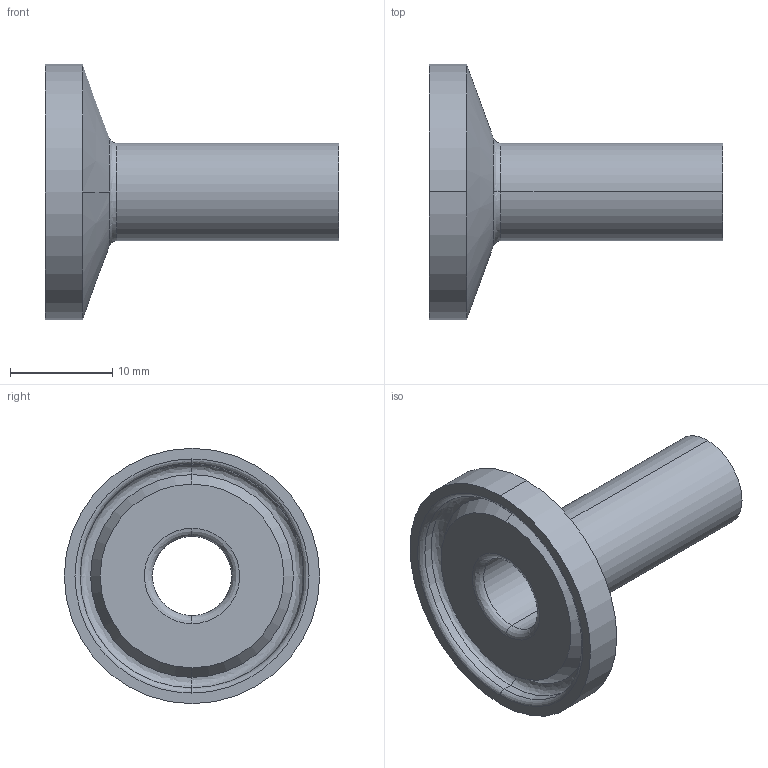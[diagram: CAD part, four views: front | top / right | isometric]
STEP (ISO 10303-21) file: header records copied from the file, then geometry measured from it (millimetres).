
FILE_DESCRIPTION (( 'STEP AP214' ), '1' );
FILE_NAME ('TEG14BM76L.375.STEP', '2016-05-23T04:04:51', ( 'eran' ), ( '' ), 'SwSTEP 2.0', 'SolidWorks 2016', '' );
FILE_SCHEMA (( 'AUTOMOTIVE_DESIGN' ));
Length unit declared in the file: millimetre
Products named in the file (1): TEG14BM76L.375
Bounding box: 28.7 x 24.99 x 24.99 mm (x, y, z)
Volume: 2331.8 mm3; surface area: 2683.9 mm2
Topology: 1 solids, 1 shells, 23 faces, 50 edges, 30 vertices
Faces by surface type: bspline 8, cylinder 8, cone 4, plane 3
Entity records: 764 total; most frequent: CARTESIAN_POINT 236, DIRECTION 112, ORIENTED_EDGE 100, AXIS2_PLACEMENT_3D 50, EDGE_CURVE 50, CIRCLE 34, VERTEX_POINT 30, EDGE_LOOP 26
